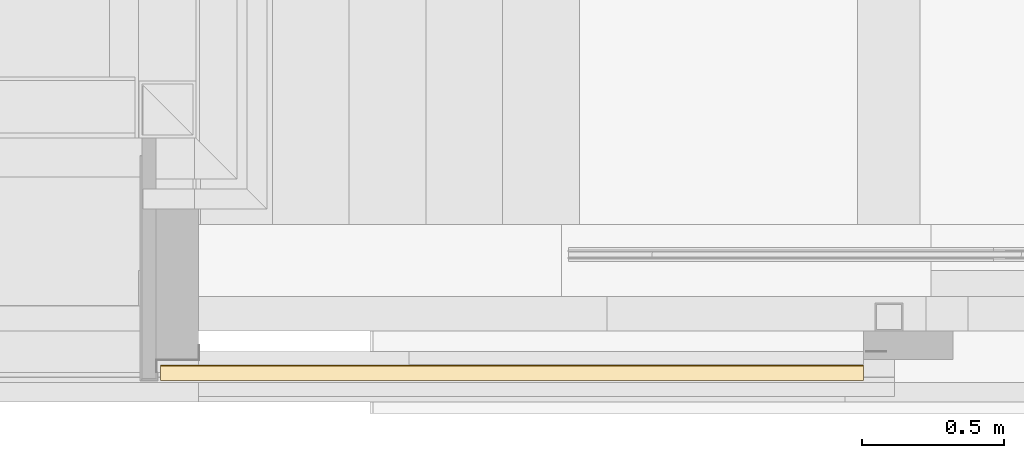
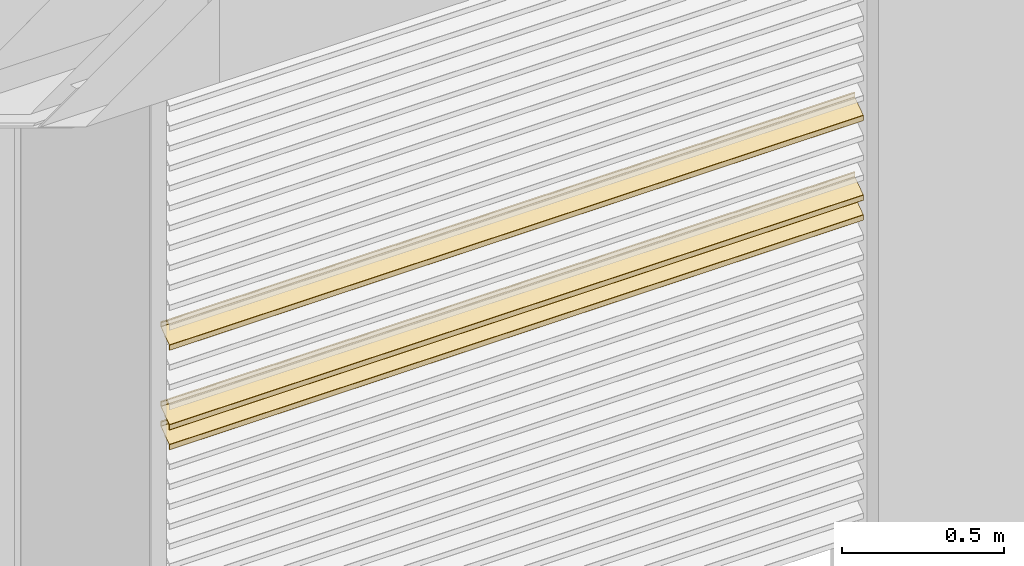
# One storey, part 108 of 165: 3 coverings, 1 element without a shape of its own.
"""IFC2X3 building model written with IfcOpenShell, lengths in millimetres."""

from ifc_helpers import new_model, entity, si_unit, converted_unit, derived_unit, money_unit, direction, frame, origin_with_axes, place, context, subcontext, project, spatial, faceted_brep, material, type_object, element, aggregate, save


model = new_model("IFC2X3")

# Units and contexts
model_context = context("Model", 3, precision=0.01, world=origin_with_axes(), true_north=direction((0.0, 1.0)))
body_context = subcontext(model_context, "Body", "Model", "MODEL_VIEW")
ifc_project = project(units=[si_unit("LENGTHUNIT", "METRE", prefix="MILLI"), si_unit("AREAUNIT", "SQUARE_METRE"), si_unit("VOLUMEUNIT", "CUBIC_METRE"), converted_unit("PLANEANGLEUNIT", "DEGREE", entity("IfcPlaneAngleMeasure", 0.0174532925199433), si_unit("PLANEANGLEUNIT", "RADIAN"), dimensions=[0, 0, 0, 0, 0, 0, 0]), money_unit("EUR"), converted_unit("TIMEUNIT", "Year", entity("IfcTimeMeasure", 31556926.0), si_unit("TIMEUNIT", "SECOND"), dimensions=[0, 0, 1, 0, 0, 0, 0]), si_unit("MASSUNIT", "GRAM", prefix="KILO"), si_unit("THERMODYNAMICTEMPERATUREUNIT", "DEGREE_CELSIUS"), si_unit("LUMINOUSINTENSITYUNIT", "LUMEN"), si_unit("ENERGYUNIT", "JOULE", prefix="MEGA"), derived_unit("THERMALCONDUCTANCEUNIT", [(si_unit("POWERUNIT", "WATT"), 1), (si_unit("LENGTHUNIT", "METRE"), -1), (si_unit("THERMODYNAMICTEMPERATUREUNIT", "KELVIN"), -1)]), derived_unit("SPECIFICHEATCAPACITYUNIT", [(si_unit("ENERGYUNIT", "JOULE"), 1), (si_unit("MASSUNIT", "GRAM", prefix="KILO"), -1), (si_unit("THERMODYNAMICTEMPERATUREUNIT", "KELVIN"), -1)]), derived_unit("MASSDENSITYUNIT", [(si_unit("MASSUNIT", "GRAM", prefix="KILO"), 1), (si_unit("VOLUMEUNIT", "CUBIC_METRE"), -1)])], contexts=[model_context])

# Site, building, storey
site_placement = place(None, origin_with_axes())
site = spatial("IfcSite", under=ifc_project, at=site_placement, Name="Site", CompositionType="ELEMENT")
building_placement = place(site_placement, origin_with_axes())
building = spatial("IfcBuilding", under=site, at=building_placement, Name="Naam gebouw", CompositionType="ELEMENT")
storey_placement = place(building_placement, origin_with_axes())
storey = spatial("IfcBuildingStorey", under=building, at=storey_placement, Name="Begane grond", CompositionType="ELEMENT", Elevation=0.0)

# Beam, coverings
beam_type = type_object("IfcBeamType", Name="30 Duco Louvre deur 55 x 2627", PredefinedType="BEAM")
beam_placement = place(storey_placement, frame((13900.0, -116.9904125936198, 0.0), z_axis=(0.0, 0.0, 1.0), x_axis=(0.0, 1.0, 0.0)))
beam = element("IfcBeam", 1, at=beam_placement, inside=storey, type_object=beam_type, Name="_Regenwaterafvoer-x", ObjectType="BEAM")
ifc_material = material(Name="Metaal - Aluminium")
covering_1_placement = place(beam_placement, origin_with_axes())
covering_1 = element("IfcCovering", 2, at=covering_1_placement, material=ifc_material, Name="Metaal - Aluminium", PredefinedType="NOTDEFINED", context=body_context, shape_type="Brep", body=[
    faceted_brep([(-4.027927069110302, 2473.999999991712, 1358.699501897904), (-56.57357643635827, 2473.999999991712, 1321.90664211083), (-56.57357643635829, 0.0, 1321.90664211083), (-4.027927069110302, 0.0, 1358.699501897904), (-3.900000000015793, 2473.999999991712, 1358.94524751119), (-3.900000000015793, 2473.999999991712, 1374.126428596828), (-3.975892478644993, 2473.999999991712, 1374.325867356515), (-4.165172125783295, 2473.999999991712, 1374.424400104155), (-4.372072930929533, 2473.999999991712, 1374.372174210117), (-5.427927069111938, 2473.999999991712, 1373.632857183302), (-5.634827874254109, 2473.999999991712, 1373.580631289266), (-5.824107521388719, 2473.999999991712, 1373.679164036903), (-5.900000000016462, 2473.999999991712, 1373.878602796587), (-5.900000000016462, 2473.999999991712, 1375.465609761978), (-5.772072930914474, 2473.999999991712, 1375.711355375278), (-2.944145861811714, 2473.999999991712, 1377.691491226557), (-2.530344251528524, 2473.999999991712, 1377.795943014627), (-2.15178495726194, 2473.999999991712, 1377.598877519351), (-2.000000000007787, 2473.999999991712, 1377.199999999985), (-2.000000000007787, 2473.999999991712, 1358.320567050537), (-2.426423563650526, 2473.999999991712, 1357.501415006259), (-26.08018232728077, 2473.999999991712, 1340.938874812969), (-26.40000000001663, 2473.999999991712, 1340.324510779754), (-26.40000000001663, 2473.999999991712, 1337.127817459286), (-26.61966991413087, 2473.999999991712, 1336.597487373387), (-28.0585786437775, 2473.999999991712, 1335.158578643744), (-28.20000000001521, 2473.999999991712, 1335.099999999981), (-28.34142135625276, 2473.999999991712, 1335.158578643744), (-28.40000000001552, 2473.999999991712, 1335.299999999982), (-28.40000000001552, 2473.999999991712, 1337.873784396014), (-28.58973119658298, 2473.999999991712, 1338.372381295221), (-29.06293031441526, 2473.999999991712, 1338.618713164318), (-29.58018232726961, 2473.999999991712, 1338.488148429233), (-30.60000000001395, 2473.999999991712, 1337.774064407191), (-30.60000000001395, 2473.999999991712, 1332.599999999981), (-30.74644660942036, 2473.999999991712, 1332.246446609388), (-31.10000000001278, 2473.999999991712, 1332.099999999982), (-32.10000000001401, 2473.999999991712, 1332.099999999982), (-32.45355339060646, 2473.999999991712, 1332.246446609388), (-32.60000000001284, 2473.999999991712, 1332.599999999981), (-32.60000000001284, 2473.999999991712, 1334.932912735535), (-32.78973119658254, 2473.999999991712, 1335.431509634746), (-33.26293031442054, 2473.999999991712, 1335.677841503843), (-33.78018232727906, 2473.999999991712, 1335.547276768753), (-54.9720729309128, 2473.999999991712, 1320.708555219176), (-55.10000000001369, 2473.999999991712, 1320.462809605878), (-55.10000000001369, 2473.999999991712, 1304.973571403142), (-55.02410752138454, 2473.999999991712, 1304.774132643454), (-54.8348278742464, 2473.999999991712, 1304.675599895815), (-54.62792706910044, 2473.999999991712, 1304.727825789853), (-53.57207293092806, 2473.999999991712, 1305.46714281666), (-53.36517212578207, 2473.999999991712, 1305.519368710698), (-53.17589247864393, 2473.999999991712, 1305.420835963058), (-53.1000000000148, 2473.999999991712, 1305.221397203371), (-53.1000000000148, 2473.999999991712, 1303.634390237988), (-53.22792706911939, 2473.999999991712, 1303.388644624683), (-56.05585413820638, 2473.999999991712, 1301.408508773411), (-56.46965574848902, 2473.999999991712, 1301.304056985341), (-56.84821504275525, 2473.999999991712, 1301.501122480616), (-57.00000000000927, 2473.999999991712, 1301.899999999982), (-57.00000000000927, 2473.999999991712, 1321.087490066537), (-57.00000000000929, 0.0, 1321.087490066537), (-57.00000000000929, 0.0, 1301.899999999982), (-56.84821504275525, 0.0, 1301.501122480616), (-56.46965574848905, 0.0, 1301.304056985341), (-56.05585413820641, 0.0, 1301.408508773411), (-53.22792706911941, 0.0, 1303.388644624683), (-53.10000000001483, 0.0, 1303.634390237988), (-53.10000000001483, 0.0, 1305.221397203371), (-53.17589247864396, 0.0, 1305.420835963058), (-53.3651721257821, 0.0, 1305.519368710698), (-53.57207293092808, 0.0, 1305.46714281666), (-54.62792706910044, 0.0, 1304.727825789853), (-54.83482787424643, 0.0, 1304.675599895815), (-55.02410752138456, 0.0, 1304.774132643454), (-55.10000000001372, 0.0, 1304.973571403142), (-55.10000000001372, 0.0, 1320.462809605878), (-54.97207293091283, 0.0, 1320.708555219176), (-33.78018232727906, 0.0, 1335.547276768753), (-33.26293031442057, 0.0, 1335.677841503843), (-32.78973119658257, 0.0, 1335.431509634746), (-32.60000000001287, 0.0, 1334.932912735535), (-32.60000000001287, 0.0, 1332.599999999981), (-32.45355339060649, 0.0, 1332.246446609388), (-32.10000000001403, 0.0, 1332.099999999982), (-31.10000000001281, 0.0, 1332.099999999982), (-30.74644660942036, 0.0, 1332.246446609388), (-30.60000000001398, 0.0, 1332.599999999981), (-30.60000000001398, 0.0, 1337.774064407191), (-29.58018232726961, 0.0, 1338.488148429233), (-29.06293031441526, 0.0, 1338.618713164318), (-28.58973119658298, 0.0, 1338.372381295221), (-28.40000000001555, 0.0, 1337.873784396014), (-28.40000000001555, 0.0, 1335.299999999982), (-28.34142135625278, 0.0, 1335.158578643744), (-28.20000000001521, 0.0, 1335.099999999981), (-28.0585786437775, 0.0, 1335.158578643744), (-26.6196699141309, 0.0, 1336.597487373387), (-26.40000000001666, 0.0, 1337.127817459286), (-26.40000000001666, 0.0, 1340.324510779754), (-26.08018232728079, 0.0, 1340.938874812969), (-2.42642356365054, 0.0, 1357.501415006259), (-2.000000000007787, 0.0, 1358.320567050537), (-2.000000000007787, 0.0, 1377.199999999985), (-2.15178495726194, 0.0, 1377.598877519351), (-2.530344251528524, 0.0, 1377.795943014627), (-2.944145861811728, 0.0, 1377.691491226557), (-5.772072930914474, 0.0, 1375.711355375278), (-5.900000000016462, 0.0, 1375.465609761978), (-5.900000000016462, 0.0, 1373.878602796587), (-5.824107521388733, 0.0, 1373.679164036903), (-5.634827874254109, 0.0, 1373.580631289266), (-5.427927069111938, 0.0, 1373.632857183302), (-4.372072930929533, 0.0, 1374.372174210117), (-4.165172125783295, 0.0, 1374.424400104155), (-3.975892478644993, 0.0, 1374.325867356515), (-3.900000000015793, 0.0, 1374.126428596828), (-3.900000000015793, 0.0, 1358.94524751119)], [[[0, 1, 2, 3]], [[0, 4, 5, 6, 7, 8, 9, 10, 11, 12, 13, 14, 15, 16, 17, 18, 19, 20, 21, 22, 23, 24, 25, 26, 27, 28, 29, 30, 31, 32, 33, 34, 35, 36, 37, 38, 39, 40, 41, 42, 43, 44, 45, 46, 47, 48, 49, 50, 51, 52, 53, 54, 55, 56, 57, 58, 59, 60, 1]], [[1, 60, 61, 2]], [[3, 2, 61, 62, 63, 64, 65, 66, 67, 68, 69, 70, 71, 72, 73, 74, 75, 76, 77, 78, 79, 80, 81, 82, 83, 84, 85, 86, 87, 88, 89, 90, 91, 92, 93, 94, 95, 96, 97, 98, 99, 100, 101, 102, 103, 104, 105, 106, 107, 108, 109, 110, 111, 112, 113, 114, 115, 116, 117]], [[4, 0, 3, 117]], [[5, 4, 117, 116]], [[6, 5, 116, 115]], [[7, 6, 115, 114]], [[8, 7, 114, 113]], [[9, 8, 113, 112]], [[10, 9, 112, 111]], [[11, 10, 111, 110]], [[12, 11, 110, 109]], [[13, 12, 109, 108]], [[14, 13, 108, 107]], [[15, 14, 107, 106]], [[16, 15, 106, 105]], [[17, 16, 105, 104]], [[18, 17, 104, 103]], [[19, 18, 103, 102]], [[20, 19, 102, 101]], [[21, 20, 101, 100]], [[22, 21, 100, 99]], [[23, 22, 99, 98]], [[24, 23, 98, 97]], [[25, 24, 97, 96]], [[26, 25, 96, 95]], [[27, 26, 95, 94]], [[28, 27, 94, 93]], [[29, 28, 93, 92]], [[30, 29, 92, 91]], [[31, 30, 91, 90]], [[32, 31, 90, 89]], [[33, 32, 89, 88]], [[34, 33, 88, 87]], [[35, 34, 87, 86]], [[36, 35, 86, 85]], [[37, 36, 85, 84]], [[38, 37, 84, 83]], [[39, 38, 83, 82]], [[40, 39, 82, 81]], [[41, 40, 81, 80]], [[42, 41, 80, 79]], [[43, 42, 79, 78]], [[44, 43, 78, 77]], [[45, 44, 77, 76]], [[46, 45, 76, 75]], [[47, 46, 75, 74]], [[48, 47, 74, 73]], [[49, 48, 73, 72]], [[50, 49, 72, 71]], [[51, 50, 71, 70]], [[52, 51, 70, 69]], [[53, 52, 69, 68]], [[54, 53, 68, 67]], [[55, 54, 67, 66]], [[56, 55, 66, 65]], [[57, 56, 65, 64]], [[58, 57, 64, 63]], [[59, 58, 63, 62]], [[60, 59, 62, 61]]]),
])
covering_2_placement = place(beam_placement, origin_with_axes())
covering_2 = element("IfcCovering", 3, at=covering_2_placement, material=ifc_material, Name="Metaal - Aluminium", PredefinedType="NOTDEFINED", context=body_context, shape_type="Brep", body=[
    faceted_brep([(-4.027927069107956, 2473.999999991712, 1283.69950189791), (-56.57357643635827, 2473.999999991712, 1246.906642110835), (-56.57357643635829, 0.0, 1246.906642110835), (-4.02792706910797, 0.0, 1283.69950189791), (-3.90000000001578, 2473.999999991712, 1283.945247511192), (-3.90000000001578, 2473.999999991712, 1299.126428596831), (-3.975892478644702, 2473.999999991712, 1299.325867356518), (-4.165172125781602, 2473.999999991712, 1299.424400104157), (-4.372072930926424, 2473.999999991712, 1299.37217421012), (-5.427927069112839, 2473.999999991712, 1298.632857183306), (-5.634827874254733, 2473.999999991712, 1298.58063128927), (-5.824107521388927, 2473.999999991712, 1298.679164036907), (-5.900000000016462, 2473.999999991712, 1298.878602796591), (-5.900000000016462, 2473.999999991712, 1300.465609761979), (-5.77207293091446, 2473.999999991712, 1300.711355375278), (-2.944145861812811, 2473.999999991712, 1302.691491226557), (-2.530344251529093, 2473.999999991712, 1302.795943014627), (-2.151784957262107, 2473.999999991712, 1302.598877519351), (-2.000000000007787, 2473.999999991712, 1302.199999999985), (-2.000000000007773, 2473.999999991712, 1283.320567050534), (-2.42642356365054, 2473.999999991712, 1282.501415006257), (-26.08018232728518, 2473.999999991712, 1265.938874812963), (-26.40000000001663, 2473.999999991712, 1265.324510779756), (-26.40000000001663, 2473.999999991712, 1262.12781745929), (-26.61966991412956, 2473.999999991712, 1261.597487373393), (-28.05857864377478, 2473.999999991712, 1260.158578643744), (-28.20000000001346, 2473.999999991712, 1260.09999999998), (-28.34142135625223, 2473.999999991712, 1260.158578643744), (-28.40000000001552, 2473.999999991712, 1260.299999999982), (-28.40000000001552, 2473.999999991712, 1262.873784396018), (-28.58973119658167, 2473.999999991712, 1263.372381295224), (-29.06293031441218, 2473.999999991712, 1263.61871316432), (-29.58018232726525, 2473.999999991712, 1263.488148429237), (-30.60000000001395, 2473.999999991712, 1262.774064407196), (-30.60000000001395, 2473.999999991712, 1257.59999999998), (-30.74644660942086, 2473.999999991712, 1257.246446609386), (-31.10000000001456, 2473.999999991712, 1257.099999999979), (-32.10000000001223, 2473.999999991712, 1257.099999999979), (-32.45355339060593, 2473.999999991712, 1257.246446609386), (-32.60000000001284, 2473.999999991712, 1257.59999999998), (-32.60000000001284, 2473.999999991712, 1259.932912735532), (-32.78973119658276, 2473.999999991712, 1260.431509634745), (-33.26293031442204, 2473.999999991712, 1260.677841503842), (-33.780182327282, 2473.999999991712, 1260.547276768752), (-54.97207293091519, 2473.999999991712, 1245.708555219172), (-55.10000000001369, 2473.999999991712, 1245.462809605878), (-55.10000000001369, 2473.999999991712, 1229.973571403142), (-55.02410752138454, 2473.999999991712, 1229.774132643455), (-54.8348278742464, 2473.999999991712, 1229.675599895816), (-54.62792706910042, 2473.999999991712, 1229.727825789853), (-53.57207293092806, 2473.999999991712, 1230.467142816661), (-53.36517212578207, 2473.999999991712, 1230.519368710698), (-53.17589247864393, 2473.999999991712, 1230.420835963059), (-53.1000000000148, 2473.999999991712, 1230.221397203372), (-53.1000000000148, 2473.999999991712, 1228.634390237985), (-53.22792706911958, 2473.999999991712, 1228.38864462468), (-56.05585413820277, 2473.999999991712, 1226.408508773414), (-56.46965574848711, 2473.999999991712, 1226.304056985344), (-56.8482150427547, 2473.999999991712, 1226.50112248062), (-57.00000000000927, 2473.999999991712, 1226.899999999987), (-57.00000000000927, 2473.999999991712, 1246.087490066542), (-57.00000000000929, 0.0, 1246.087490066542), (-57.00000000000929, 0.0, 1226.899999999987), (-56.84821504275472, 0.0, 1226.50112248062), (-56.46965574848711, 0.0, 1226.304056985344), (-56.0558541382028, 0.0, 1226.408508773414), (-53.22792706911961, 0.0, 1228.38864462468), (-53.10000000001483, 0.0, 1228.634390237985), (-53.10000000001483, 0.0, 1230.221397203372), (-53.17589247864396, 0.0, 1230.420835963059), (-53.3651721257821, 0.0, 1230.519368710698), (-53.57207293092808, 0.0, 1230.467142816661), (-54.62792706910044, 0.0, 1229.727825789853), (-54.83482787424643, 0.0, 1229.675599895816), (-55.02410752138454, 0.0, 1229.774132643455), (-55.10000000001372, 0.0, 1229.973571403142), (-55.10000000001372, 0.0, 1245.462809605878), (-54.97207293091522, 0.0, 1245.708555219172), (-33.78018232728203, 0.0, 1260.547276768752), (-33.26293031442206, 0.0, 1260.677841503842), (-32.78973119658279, 0.0, 1260.431509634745), (-32.60000000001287, 0.0, 1259.932912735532), (-32.60000000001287, 0.0, 1257.59999999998), (-32.45355339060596, 0.0, 1257.246446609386), (-32.10000000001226, 0.0, 1257.099999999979), (-31.10000000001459, 0.0, 1257.099999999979), (-30.74644660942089, 0.0, 1257.246446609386), (-30.60000000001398, 0.0, 1257.59999999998), (-30.60000000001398, 0.0, 1262.774064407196), (-29.58018232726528, 0.0, 1263.488148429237), (-29.06293031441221, 0.0, 1263.61871316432), (-28.5897311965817, 0.0, 1263.372381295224), (-28.40000000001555, 0.0, 1262.873784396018), (-28.40000000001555, 0.0, 1260.299999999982), (-28.34142135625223, 0.0, 1260.158578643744), (-28.20000000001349, 0.0, 1260.09999999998), (-28.05857864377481, 0.0, 1260.158578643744), (-26.61966991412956, 0.0, 1261.597487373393), (-26.40000000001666, 0.0, 1262.12781745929), (-26.40000000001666, 0.0, 1265.324510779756), (-26.08018232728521, 0.0, 1265.938874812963), (-2.42642356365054, 0.0, 1282.501415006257), (-2.000000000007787, 0.0, 1283.320567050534), (-2.000000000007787, 0.0, 1302.199999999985), (-2.151784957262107, 0.0, 1302.598877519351), (-2.530344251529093, 0.0, 1302.795943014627), (-2.944145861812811, 0.0, 1302.691491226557), (-5.77207293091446, 0.0, 1300.711355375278), (-5.900000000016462, 0.0, 1300.465609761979), (-5.900000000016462, 0.0, 1298.878602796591), (-5.824107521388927, 0.0, 1298.679164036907), (-5.634827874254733, 0.0, 1298.58063128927), (-5.427927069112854, 0.0, 1298.632857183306), (-4.372072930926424, 0.0, 1299.37217421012), (-4.165172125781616, 0.0, 1299.424400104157), (-3.975892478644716, 0.0, 1299.325867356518), (-3.900000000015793, 0.0, 1299.126428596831), (-3.900000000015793, 0.0, 1283.945247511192)], [[[0, 1, 2, 3]], [[0, 4, 5, 6, 7, 8, 9, 10, 11, 12, 13, 14, 15, 16, 17, 18, 19, 20, 21, 22, 23, 24, 25, 26, 27, 28, 29, 30, 31, 32, 33, 34, 35, 36, 37, 38, 39, 40, 41, 42, 43, 44, 45, 46, 47, 48, 49, 50, 51, 52, 53, 54, 55, 56, 57, 58, 59, 60, 1]], [[1, 60, 61, 2]], [[3, 2, 61, 62, 63, 64, 65, 66, 67, 68, 69, 70, 71, 72, 73, 74, 75, 76, 77, 78, 79, 80, 81, 82, 83, 84, 85, 86, 87, 88, 89, 90, 91, 92, 93, 94, 95, 96, 97, 98, 99, 100, 101, 102, 103, 104, 105, 106, 107, 108, 109, 110, 111, 112, 113, 114, 115, 116, 117]], [[4, 0, 3, 117]], [[5, 4, 117, 116]], [[6, 5, 116, 115]], [[7, 6, 115, 114]], [[8, 7, 114, 113]], [[9, 8, 113, 112]], [[10, 9, 112, 111]], [[11, 10, 111, 110]], [[12, 11, 110, 109]], [[13, 12, 109, 108]], [[14, 13, 108, 107]], [[15, 14, 107, 106]], [[16, 15, 106, 105]], [[17, 16, 105, 104]], [[18, 17, 104, 103]], [[19, 18, 103, 102]], [[20, 19, 102, 101]], [[21, 20, 101, 100]], [[22, 21, 100, 99]], [[23, 22, 99, 98]], [[24, 23, 98, 97]], [[25, 24, 97, 96]], [[26, 25, 96, 95]], [[27, 26, 95, 94]], [[28, 27, 94, 93]], [[29, 28, 93, 92]], [[30, 29, 92, 91]], [[31, 30, 91, 90]], [[32, 31, 90, 89]], [[33, 32, 89, 88]], [[34, 33, 88, 87]], [[35, 34, 87, 86]], [[36, 35, 86, 85]], [[37, 36, 85, 84]], [[38, 37, 84, 83]], [[39, 38, 83, 82]], [[40, 39, 82, 81]], [[41, 40, 81, 80]], [[42, 41, 80, 79]], [[43, 42, 79, 78]], [[44, 43, 78, 77]], [[45, 44, 77, 76]], [[46, 45, 76, 75]], [[47, 46, 75, 74]], [[48, 47, 74, 73]], [[49, 48, 73, 72]], [[50, 49, 72, 71]], [[51, 50, 71, 70]], [[52, 51, 70, 69]], [[53, 52, 69, 68]], [[54, 53, 68, 67]], [[55, 54, 67, 66]], [[56, 55, 66, 65]], [[57, 56, 65, 64]], [[58, 57, 64, 63]], [[59, 58, 63, 62]], [[60, 59, 62, 61]]]),
])
covering_3_placement = place(beam_placement, origin_with_axes())
covering_3 = element("IfcCovering", 4, at=covering_3_placement, material=ifc_material, Name="Metaal - Aluminium", PredefinedType="NOTDEFINED", context=body_context, shape_type="Brep", body=[
    faceted_brep([(-4.027927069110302, 2473.999999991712, 1658.699501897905), (-56.57357643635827, 2473.999999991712, 1621.906642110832), (-56.57357643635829, 0.0, 1621.906642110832), (-4.027927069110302, 0.0, 1658.699501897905), (-3.90000000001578, 2473.999999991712, 1658.945247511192), (-3.90000000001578, 2473.999999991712, 1674.126428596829), (-3.97589247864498, 2473.999999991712, 1674.325867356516), (-4.165172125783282, 2473.999999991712, 1674.424400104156), (-4.372072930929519, 2473.999999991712, 1674.372174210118), (-5.427927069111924, 2473.999999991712, 1673.632857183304), (-5.634827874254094, 2473.999999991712, 1673.580631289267), (-5.824107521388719, 2473.999999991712, 1673.679164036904), (-5.900000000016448, 2473.999999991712, 1673.878602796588), (-5.900000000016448, 2473.999999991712, 1675.465609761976), (-5.77207293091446, 2473.999999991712, 1675.711355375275), (-2.944145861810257, 2473.999999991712, 1677.691491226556), (-2.53034425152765, 2473.999999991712, 1677.795943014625), (-2.151784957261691, 2473.999999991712, 1677.59887751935), (-2.000000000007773, 2473.999999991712, 1677.199999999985), (-2.000000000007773, 2473.999999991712, 1658.320567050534), (-2.426423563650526, 2473.999999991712, 1657.501415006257), (-26.08018232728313, 2473.999999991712, 1640.938874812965), (-26.40000000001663, 2473.999999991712, 1640.324510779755), (-26.40000000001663, 2473.999999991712, 1637.127817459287), (-26.61966991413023, 2473.999999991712, 1636.597487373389), (-28.05857864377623, 2473.999999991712, 1635.158578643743), (-28.20000000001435, 2473.999999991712, 1635.09999999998), (-28.34142135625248, 2473.999999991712, 1635.158578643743), (-28.40000000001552, 2473.999999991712, 1635.299999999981), (-28.40000000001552, 2473.999999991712, 1637.873784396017), (-28.58973119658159, 2473.999999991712, 1638.372381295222), (-29.06293031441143, 2473.999999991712, 1638.618713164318), (-29.58018232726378, 2473.999999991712, 1638.488148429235), (-30.60000000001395, 2473.999999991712, 1637.774064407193), (-30.60000000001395, 2473.999999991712, 1632.599999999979), (-30.74644660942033, 2473.999999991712, 1632.246446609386), (-31.10000000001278, 2473.999999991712, 1632.09999999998), (-32.10000000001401, 2473.999999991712, 1632.09999999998), (-32.45355339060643, 2473.999999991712, 1632.246446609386), (-32.60000000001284, 2473.999999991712, 1632.599999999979), (-32.60000000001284, 2473.999999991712, 1634.932912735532), (-32.78973119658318, 2473.999999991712, 1635.431509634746), (-33.26293031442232, 2473.999999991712, 1635.677841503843), (-33.780182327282, 2473.999999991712, 1635.547276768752), (-54.97207293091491, 2473.999999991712, 1620.708555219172), (-55.10000000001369, 2473.999999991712, 1620.462809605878), (-55.10000000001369, 2473.999999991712, 1604.973571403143), (-55.02410752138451, 2473.999999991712, 1604.774132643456), (-54.8348278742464, 2473.999999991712, 1604.675599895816), (-54.62792706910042, 2473.999999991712, 1604.727825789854), (-53.57207293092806, 2473.999999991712, 1605.467142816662), (-53.36517212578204, 2473.999999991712, 1605.519368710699), (-53.17589247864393, 2473.999999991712, 1605.42083596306), (-53.1000000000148, 2473.999999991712, 1605.221397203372), (-53.1000000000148, 2473.999999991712, 1603.634390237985), (-53.22792706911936, 2473.999999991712, 1603.388644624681), (-56.05585413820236, 2473.999999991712, 1601.408508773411), (-56.46965574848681, 2473.999999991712, 1601.304056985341), (-56.84821504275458, 2473.999999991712, 1601.501122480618), (-57.00000000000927, 2473.999999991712, 1601.899999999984), (-57.00000000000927, 2473.999999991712, 1621.087490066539), (-57.00000000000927, 0.0, 1621.087490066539), (-57.00000000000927, 0.0, 1601.899999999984), (-56.84821504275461, 0.0, 1601.501122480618), (-56.46965574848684, 0.0, 1601.304056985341), (-56.05585413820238, 0.0, 1601.408508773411), (-53.22792706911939, 0.0, 1603.388644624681), (-53.1000000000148, 0.0, 1603.634390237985), (-53.1000000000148, 0.0, 1605.221397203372), (-53.17589247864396, 0.0, 1605.42083596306), (-53.36517212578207, 0.0, 1605.519368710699), (-53.57207293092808, 0.0, 1605.467142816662), (-54.62792706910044, 0.0, 1604.727825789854), (-54.83482787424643, 0.0, 1604.675599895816), (-55.02410752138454, 0.0, 1604.774132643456), (-55.10000000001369, 0.0, 1604.973571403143), (-55.10000000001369, 0.0, 1620.462809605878), (-54.97207293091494, 0.0, 1620.708555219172), (-33.78018232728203, 0.0, 1635.547276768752), (-33.26293031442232, 0.0, 1635.677841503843), (-32.78973119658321, 0.0, 1635.431509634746), (-32.60000000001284, 0.0, 1634.932912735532), (-32.60000000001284, 0.0, 1632.599999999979), (-32.45355339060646, 0.0, 1632.246446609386), (-32.10000000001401, 0.0, 1632.09999999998), (-31.10000000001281, 0.0, 1632.09999999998), (-30.74644660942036, 0.0, 1632.246446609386), (-30.60000000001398, 0.0, 1632.599999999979), (-30.60000000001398, 0.0, 1637.774064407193), (-29.58018232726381, 0.0, 1638.488148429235), (-29.06293031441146, 0.0, 1638.618713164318), (-28.58973119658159, 0.0, 1638.372381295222), (-28.40000000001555, 0.0, 1637.873784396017), (-28.40000000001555, 0.0, 1635.299999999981), (-28.3414213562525, 0.0, 1635.158578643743), (-28.20000000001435, 0.0, 1635.09999999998), (-28.05857864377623, 0.0, 1635.158578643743), (-26.61966991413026, 0.0, 1636.597487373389), (-26.40000000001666, 0.0, 1637.127817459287), (-26.40000000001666, 0.0, 1640.324510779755), (-26.08018232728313, 0.0, 1640.938874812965), (-2.42642356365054, 0.0, 1657.501415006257), (-2.000000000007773, 0.0, 1658.320567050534), (-2.000000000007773, 0.0, 1677.199999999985), (-2.151784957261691, 0.0, 1677.59887751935), (-2.530344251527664, 0.0, 1677.795943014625), (-2.944145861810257, 0.0, 1677.691491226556), (-5.77207293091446, 0.0, 1675.711355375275), (-5.900000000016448, 0.0, 1675.465609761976), (-5.900000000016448, 0.0, 1673.878602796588), (-5.824107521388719, 0.0, 1673.679164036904), (-5.634827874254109, 0.0, 1673.580631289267), (-5.427927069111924, 0.0, 1673.632857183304), (-4.372072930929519, 0.0, 1674.372174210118), (-4.165172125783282, 0.0, 1674.424400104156), (-3.975892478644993, 0.0, 1674.325867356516), (-3.90000000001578, 0.0, 1674.126428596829), (-3.90000000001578, 0.0, 1658.945247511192)], [[[0, 1, 2, 3]], [[0, 4, 5, 6, 7, 8, 9, 10, 11, 12, 13, 14, 15, 16, 17, 18, 19, 20, 21, 22, 23, 24, 25, 26, 27, 28, 29, 30, 31, 32, 33, 34, 35, 36, 37, 38, 39, 40, 41, 42, 43, 44, 45, 46, 47, 48, 49, 50, 51, 52, 53, 54, 55, 56, 57, 58, 59, 60, 1]], [[1, 60, 61, 2]], [[3, 2, 61, 62, 63, 64, 65, 66, 67, 68, 69, 70, 71, 72, 73, 74, 75, 76, 77, 78, 79, 80, 81, 82, 83, 84, 85, 86, 87, 88, 89, 90, 91, 92, 93, 94, 95, 96, 97, 98, 99, 100, 101, 102, 103, 104, 105, 106, 107, 108, 109, 110, 111, 112, 113, 114, 115, 116, 117]], [[4, 0, 3, 117]], [[5, 4, 117, 116]], [[6, 5, 116, 115]], [[7, 6, 115, 114]], [[8, 7, 114, 113]], [[9, 8, 113, 112]], [[10, 9, 112, 111]], [[11, 10, 111, 110]], [[12, 11, 110, 109]], [[13, 12, 109, 108]], [[14, 13, 108, 107]], [[15, 14, 107, 106]], [[16, 15, 106, 105]], [[17, 16, 105, 104]], [[18, 17, 104, 103]], [[19, 18, 103, 102]], [[20, 19, 102, 101]], [[21, 20, 101, 100]], [[22, 21, 100, 99]], [[23, 22, 99, 98]], [[24, 23, 98, 97]], [[25, 24, 97, 96]], [[26, 25, 96, 95]], [[27, 26, 95, 94]], [[28, 27, 94, 93]], [[29, 28, 93, 92]], [[30, 29, 92, 91]], [[31, 30, 91, 90]], [[32, 31, 90, 89]], [[33, 32, 89, 88]], [[34, 33, 88, 87]], [[35, 34, 87, 86]], [[36, 35, 86, 85]], [[37, 36, 85, 84]], [[38, 37, 84, 83]], [[39, 38, 83, 82]], [[40, 39, 82, 81]], [[41, 40, 81, 80]], [[42, 41, 80, 79]], [[43, 42, 79, 78]], [[44, 43, 78, 77]], [[45, 44, 77, 76]], [[46, 45, 76, 75]], [[47, 46, 75, 74]], [[48, 47, 74, 73]], [[49, 48, 73, 72]], [[50, 49, 72, 71]], [[51, 50, 71, 70]], [[52, 51, 70, 69]], [[53, 52, 69, 68]], [[54, 53, 68, 67]], [[55, 54, 67, 66]], [[56, 55, 66, 65]], [[57, 56, 65, 64]], [[58, 57, 64, 63]], [[59, 58, 63, 62]], [[60, 59, 62, 61]]]),
])
aggregate(beam, [covering_1, covering_2, covering_3])

save(model, "model.ifc")
